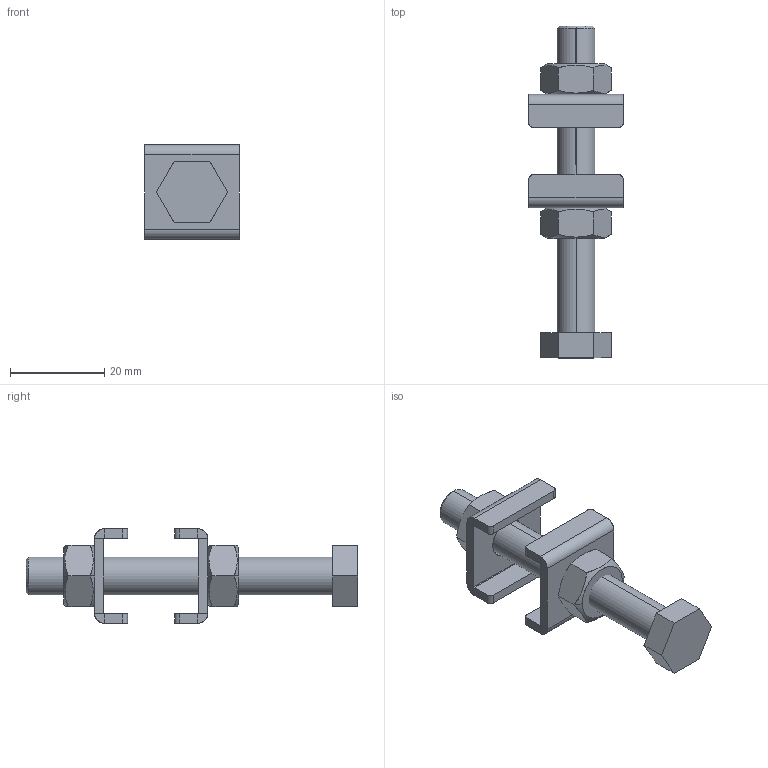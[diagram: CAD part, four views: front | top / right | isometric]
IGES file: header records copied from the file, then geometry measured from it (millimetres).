
Start section: SolidWorks IGES file using analytic representation for surfaces
Global section: file name: C:\Projetos\Ponteiras\PS\PS-M8.IGS; native system: SolidWorks 2011; preprocessor: SolidWorks 2011; author: Usuario; date: 110520.170821; units: millimetre
Bounding box: 20 x 70.3 x 20 mm (x, y, z)
Surface area: 5963.5 mm2 (no closed solid volume)
Topology: 0 solids, 0 shells, 105 faces, 1380 edges, 1380 vertices
Faces by surface type: bspline 61, revolution 44
